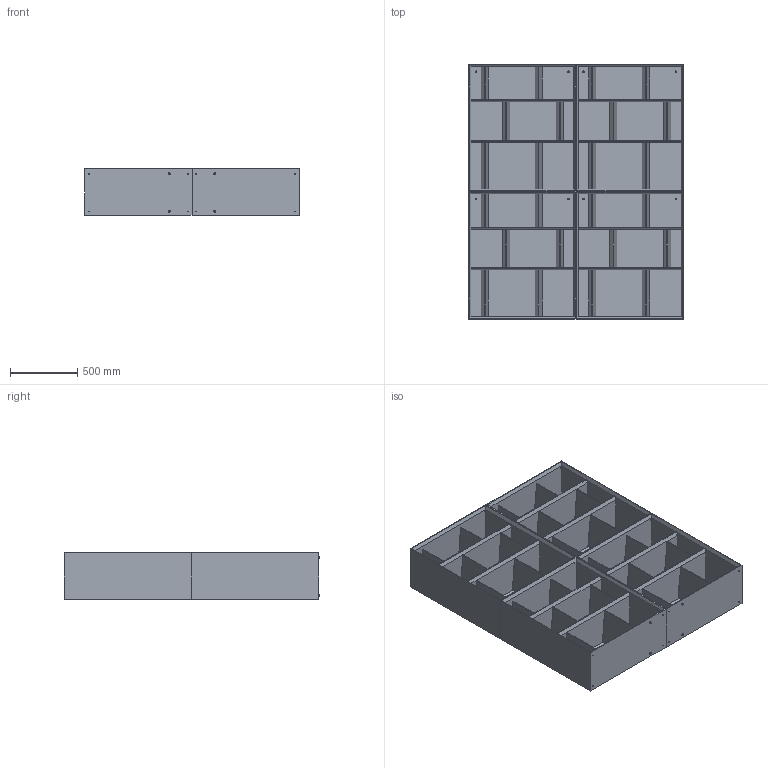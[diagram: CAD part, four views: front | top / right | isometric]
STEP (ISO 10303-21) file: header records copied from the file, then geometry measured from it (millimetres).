
FILE_DESCRIPTION (( 'STEP AP203' ), '1' );
FILE_NAME ('BL13S_Bendy Ax4_160x35x190h.STEP', '2024-08-06T08:30:21', ( '' ), ( '' ), 'SwSTEP 2.0', 'SolidWorks 2022', '' );
FILE_SCHEMA (( 'CONFIG_CONTROL_DESIGN' ));
Length unit declared in the file: millimetre
Products named in the file (7): BED000001-00-TRIANGOLO DIVISORIO_H.292; BEx00000-01-BENDY Struttura tutte le dimensioni_bendy A 80x95cm<A macchina>; BEA00000-00-ASSIEME bendy 80x95_DEFAULT; piedino M5; BED000001-00-TRIANGOLO DIVISORIO_H.256; BED000001-00-TRIANGOLO DIVISORIO_H.356; BL13S_Bendy Ax4_160x35x190h
Assembly tree (15 placements, depth 3):
  BL13S_Bendy Ax4_160x35x190h
    BEA00000-00-ASSIEME bendy 80x95_DEFAULT  x4
      BEx00000-01-BENDY Struttura tutte le dimensioni_bendy A 80x95cm<A macchina>
      BED000001-00-TRIANGOLO DIVISORIO_H.356
      BED000001-00-TRIANGOLO DIVISORIO_H.292
      BED000001-00-TRIANGOLO DIVISORIO_H.256
    piedino M5  x4
Bounding box: 1600 x 1907 x 350 mm (x, y, z)
Volume: 148834946 mm3; surface area: 28378440.8 mm2
Topology: 60 solids, 60 shells, 1440 faces, 3448 edges, 2120 vertices
Faces by surface type: plane 896, cylinder 456, cone 72, torus 16
Entity records: 9817 total; most frequent: DIRECTION 1588, CARTESIAN_POINT 1513, ORIENTED_EDGE 1460, EDGE_CURVE 730, AXIS2_PLACEMENT_3D 533, VECTOR 522, LINE 522, VERTEX_POINT 458
